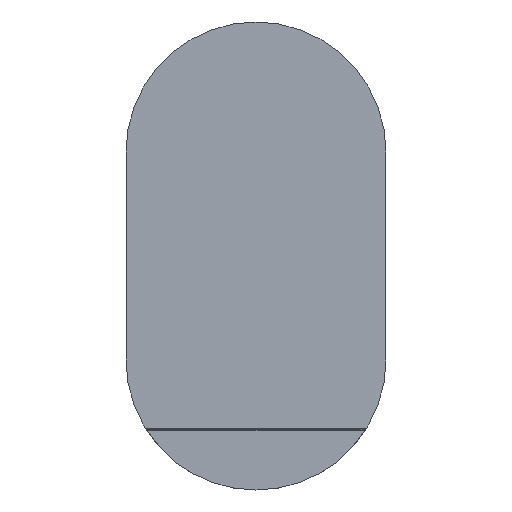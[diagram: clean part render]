
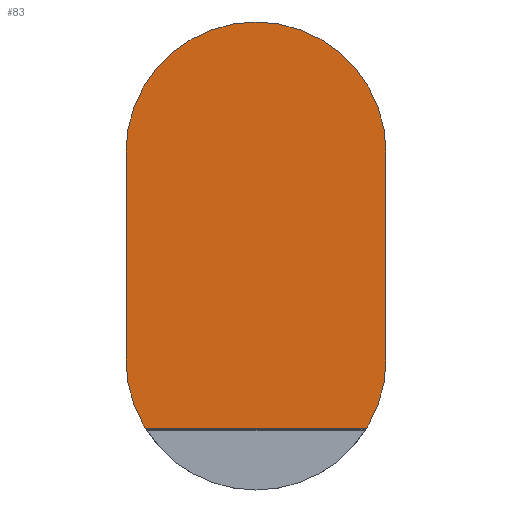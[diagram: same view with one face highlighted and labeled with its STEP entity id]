
A CAD part, front view. The second image highlights one B-rep face of the part: STEP entity #83.
In plain terms, the highlighted planar face has unit normal (0, -1, 0).
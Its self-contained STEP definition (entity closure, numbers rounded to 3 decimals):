
#83=ADVANCED_FACE('',(#103),#423,.T.);
#103=FACE_OUTER_BOUND('',#123,.T.);
#123=EDGE_LOOP('',(#146,#147,#148,#149));
#146=ORIENTED_EDGE('',*,*,#218,.T.);
#147=ORIENTED_EDGE('',*,*,#219,.T.);
#148=ORIENTED_EDGE('',*,*,#220,.T.);
#149=ORIENTED_EDGE('',*,*,#221,.T.);
#218=EDGE_CURVE('',#354,#355,#288,.T.);
#219=EDGE_CURVE('',#355,#356,#328,.T.);
#220=EDGE_CURVE('',#356,#357,#289,.T.);
#221=EDGE_CURVE('',#357,#354,#329,.T.);
#288=B_SPLINE_CURVE_WITH_KNOTS('',1,(#616,#617),.UNSPECIFIED.,.F.,.F.,(2,
2),(-4420.796,-4020.796),.UNSPECIFIED.);
#289=B_SPLINE_CURVE_WITH_KNOTS('',1,(#621,#622),.UNSPECIFIED.,.F.,.F.,(2,
2),(-3235.398,-2835.398),.UNSPECIFIED.);
#328=TRIMMED_CURVE($,#340,(#619),(#620),.T.,.CARTESIAN.);
#329=TRIMMED_CURVE($,#341,(#624),(#625),.T.,.CARTESIAN.);
#340=CIRCLE('',#524,250.);
#341=CIRCLE('',#525,250.);
#354=VERTEX_POINT('',#612);
#355=VERTEX_POINT('',#613);
#356=VERTEX_POINT('',#614);
#357=VERTEX_POINT('',#615);
#423=PLANE('',#523);
#523=AXIS2_PLACEMENT_3D('',#611,#557,$);
#524=AXIS2_PLACEMENT_3D($,#618,#558,#559);
#525=AXIS2_PLACEMENT_3D($,#623,#560,#561);
#557=DIRECTION('',(0.,-1.,0.));
#558=DIRECTION('',(0.,-1.,0.));
#559=DIRECTION('',(1.,0.,0.));
#560=DIRECTION('',(0.,-1.,0.));
#561=DIRECTION('',(-1.,0.,0.));
#611=CARTESIAN_POINT('',(-3517.395,-15217.479,1552.534));
#612=CARTESIAN_POINT('',(-3012.395,-15217.479,893.534));
#613=CARTESIAN_POINT('',(-3012.395,-15217.479,1293.534));
#614=CARTESIAN_POINT('',(-3512.395,-15217.479,1293.534));
#615=CARTESIAN_POINT('',(-3512.395,-15217.479,893.534));
#616=CARTESIAN_POINT('',(-3012.395,-15217.479,893.534));
#617=CARTESIAN_POINT('',(-3012.395,-15217.479,1293.534));
#618=CARTESIAN_POINT('',(-3262.395,-15217.479,1293.534));
#619=CARTESIAN_POINT('',(-3012.395,-15217.479,1293.534));
#620=CARTESIAN_POINT('',(-3512.395,-15217.479,1293.534));
#621=CARTESIAN_POINT('',(-3512.395,-15217.479,1293.534));
#622=CARTESIAN_POINT('',(-3512.395,-15217.479,893.534));
#623=CARTESIAN_POINT('',(-3262.395,-15217.479,893.534));
#624=CARTESIAN_POINT('',(-3512.395,-15217.479,893.534));
#625=CARTESIAN_POINT('',(-3012.395,-15217.479,893.534));
